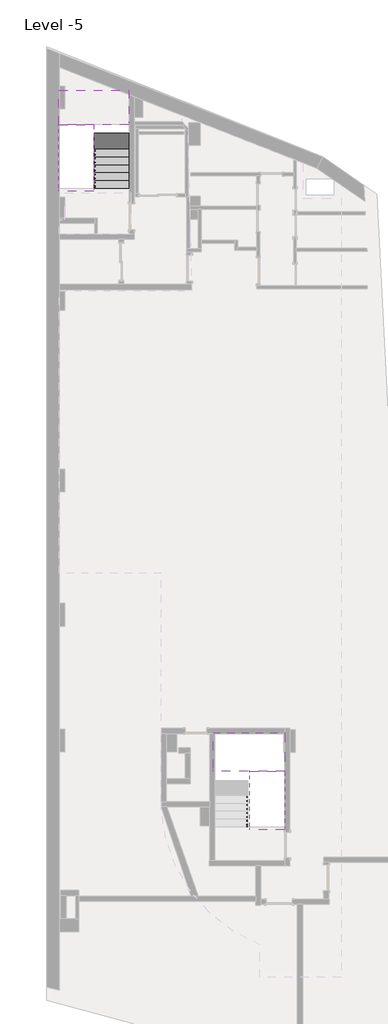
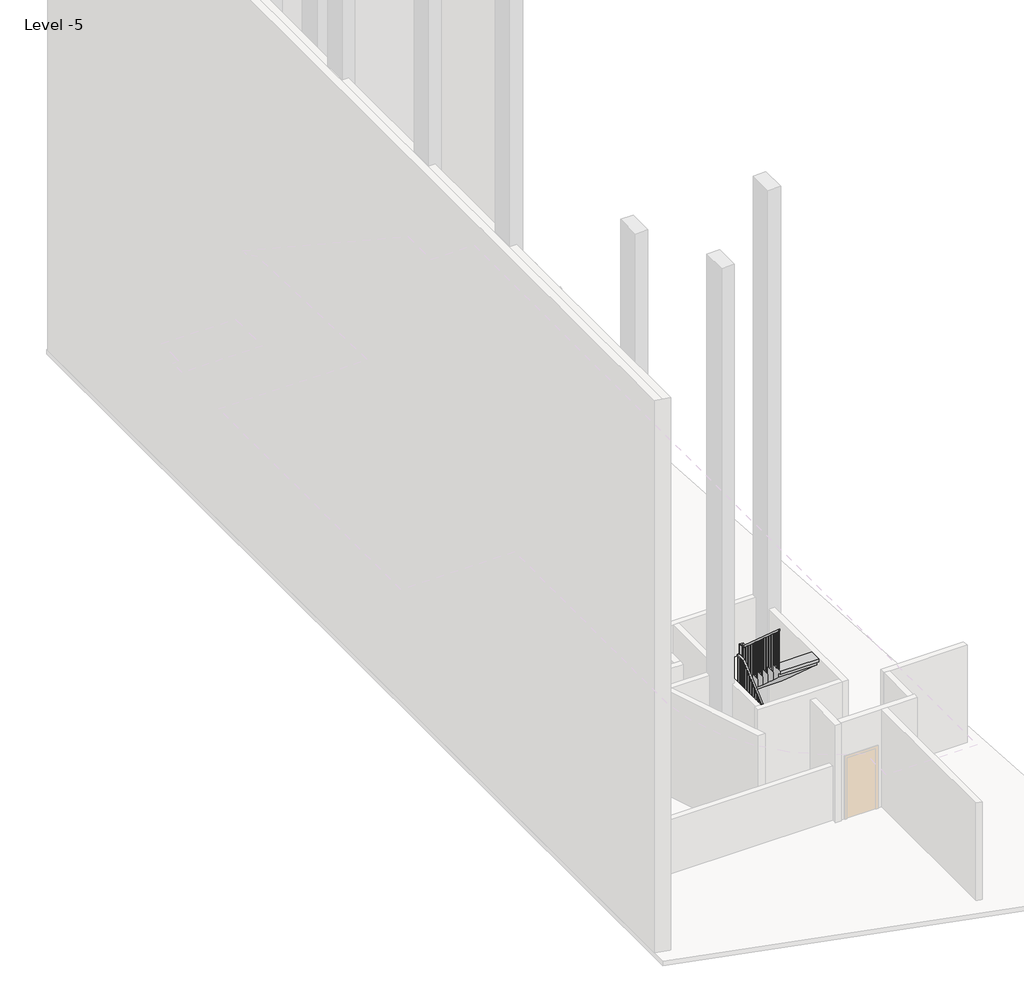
# One storey, part 3 of 3: 3 stair flights, 2 railings, 2 slabs.
"""IFC4 building model written with IfcOpenShell, lengths in millimetres."""

from ifc_helpers import new_model, si_unit, frame, origin, place, context, project, spatial, polyline, outline, extrude, faceted_brep, element, save

model = new_model("IFC4")

# Units and contexts
model_context = context("Model", 3, world=origin())
ifc_project = project(units=[si_unit("LENGTHUNIT", "METRE", prefix="MILLI")], contexts=[model_context])

# Site, building, storey
site = spatial("IfcSite", under=ifc_project)
building = spatial("IfcBuilding", under=site)
storey = spatial("IfcBuildingStorey", under=building, Name="Level -5", Elevation=-17500.0)

# Railings
placement = place(None, origin())
element("IfcRailing", 1, ObjectType="1100mm", at=placement, inside=storey, context=model_context, shape_type="SolidModel", body=[
    faceted_brep([(1179.9765888, 10328.8506586, -16194.1176471), (1179.9765888, 10328.8506586, -16256.1792584), (1229.9765888, 10328.8506586, -16256.1792584), (1229.9765888, 10328.8506586, -16194.1176471), (1179.9765888, 12288.8506586, -14752.9411765), (1179.9765888, 12305.25445, -14802.9411765), (1229.9765888, 12305.25445, -14802.9411765), (1229.9765888, 12288.8506586, -14752.9411765), (1179.9765888, 12569.2506586, -14752.9411765), (1179.9765888, 12569.2506586, -14802.9411765), (1229.9765888, 12619.2506586, -14802.9411765), (1229.9765888, 12619.2506586, -14752.9411765), (1159.5709975, 12569.2506586, -14752.9411765), (1159.5709975, 12619.2506586, -14752.9411765), (1109.5709975, 12619.2506586, -14802.9411765), (1109.5709975, 12569.2506586, -14802.9411765)], [[[0, 1, 2, 3]], [[1, 0, 4, 5]], [[2, 1, 5, 6]], [[3, 2, 6, 7]], [[0, 3, 7, 4]], [[5, 4, 8, 9]], [[6, 5, 9, 10]], [[7, 6, 10, 11]], [[4, 7, 11, 8]], [[12, 13, 14, 15]], [[9, 8, 12, 15]], [[10, 9, 15, 14]], [[11, 10, 14, 13]], [[8, 11, 13, 12]]]),
    faceted_brep([(1159.5709975, 12569.2506586, -14752.9411765), (1109.5709975, 12569.2506586, -14802.9411765), (1109.5709975, 12619.2506586, -14802.9411765), (1159.5709975, 12619.2506586, -14752.9411765), (1159.5709975, 12569.2506586, -14609.4145525), (1159.5709975, 12619.2506586, -14584.1176471), (1109.5709975, 12619.2506586, -14584.1176471), (1109.5709975, 12569.2506586, -14609.4145525)], [[[0, 1, 2, 3]], [[4, 5, 6, 7]], [[1, 0, 4, 7]], [[2, 1, 7, 6]], [[3, 2, 6, 5]], [[0, 3, 5, 4]]]),
    faceted_brep([(1159.5709975, 12619.2506586, -14584.1176471), (1159.5709975, 12569.2506586, -14609.4145525), (1109.5709975, 12569.2506586, -14609.4145525), (1109.5709975, 12619.2506586, -14584.1176471), (1159.5709975, 10328.8506586, -12900.0), (1109.5709975, 10328.8506586, -12900.0), (1109.5709975, 10328.8506586, -12962.0616113), (1159.5709975, 10328.8506586, -12962.0616113)], [[[0, 1, 2, 3]], [[4, 5, 6, 7]], [[1, 0, 4, 7]], [[2, 1, 7, 6]], [[3, 2, 6, 5]], [[0, 3, 5, 4]]]),
    extrude(outline(polyline([(10436.7506586, -14205.8823529), (10411.7506586, -14205.8823529), (10411.7506586, -13023.0174937), (10436.7506586, -13041.3998466), (10436.7506586, -14205.8823529)])), frame((1122.0709975, 0.0, 0.0), z_axis=(1.0, 0.0, 0.0), x_axis=(0.0, 1.0, 0.0)), (0.0, 0.0, 1.0), 25.0),
    extrude(outline(polyline([(10576.7506586, -14205.8823529), (10551.7506586, -14205.8823529), (10551.7506586, -13125.9586701), (10576.7506586, -13144.3410231), (10576.7506586, -14205.8823529)])), frame((1122.0709975, 0.0, 0.0), z_axis=(1.0, 0.0, 0.0), x_axis=(0.0, 1.0, 0.0)), (0.0, 0.0, 1.0), 25.0),
    extrude(outline(polyline([(10716.7506586, -14411.7647059), (10691.7506586, -14411.7647059), (10691.7506586, -13228.8998466), (10716.7506586, -13247.2821995), (10716.7506586, -14411.7647059)])), frame((1122.0709975, 0.0, 0.0), z_axis=(1.0, 0.0, 0.0), x_axis=(0.0, 1.0, 0.0)), (0.0, 0.0, 1.0), 25.0),
    extrude(outline(polyline([(10856.7506586, -14411.7647059), (10831.7506586, -14411.7647059), (10831.7506586, -13331.8410231), (10856.7506586, -13350.223376), (10856.7506586, -14411.7647059)])), frame((1122.0709975, 0.0, 0.0), z_axis=(1.0, 0.0, 0.0), x_axis=(0.0, 1.0, 0.0)), (0.0, 0.0, 1.0), 25.0),
    extrude(outline(polyline([(10996.7506586, -14617.6470588), (10971.7506586, -14617.6470588), (10971.7506586, -13434.7821995), (10996.7506586, -13453.1645525), (10996.7506586, -14617.6470588)])), frame((1122.0709975, 0.0, 0.0), z_axis=(1.0, 0.0, 0.0), x_axis=(0.0, 1.0, 0.0)), (0.0, 0.0, 1.0), 25.0),
    extrude(outline(polyline([(11136.7506586, -14617.6470588), (11111.7506586, -14617.6470588), (11111.7506586, -13537.723376), (11136.7506586, -13556.105729), (11136.7506586, -14617.6470588)])), frame((1122.0709975, 0.0, 0.0), z_axis=(1.0, 0.0, 0.0), x_axis=(0.0, 1.0, 0.0)), (0.0, 0.0, 1.0), 25.0),
    extrude(outline(polyline([(11276.7506586, -14823.5294118), (11251.7506586, -14823.5294118), (11251.7506586, -13640.6645525), (11276.7506586, -13659.0469054), (11276.7506586, -14823.5294118)])), frame((1122.0709975, 0.0, 0.0), z_axis=(1.0, 0.0, 0.0), x_axis=(0.0, 1.0, 0.0)), (0.0, 0.0, 1.0), 25.0),
    extrude(outline(polyline([(11416.7506586, -14823.5294118), (11391.7506586, -14823.5294118), (11391.7506586, -13743.605729), (11416.7506586, -13761.9880819), (11416.7506586, -14823.5294118)])), frame((1122.0709975, 0.0, 0.0), z_axis=(1.0, 0.0, 0.0), x_axis=(0.0, 1.0, 0.0)), (0.0, 0.0, 1.0), 25.0),
    extrude(outline(polyline([(11556.7506586, -15029.4117647), (11531.7506586, -15029.4117647), (11531.7506586, -13846.5469054), (11556.7506586, -13864.9292584), (11556.7506586, -15029.4117647)])), frame((1122.0709975, 0.0, 0.0), z_axis=(1.0, 0.0, 0.0), x_axis=(0.0, 1.0, 0.0)), (0.0, 0.0, 1.0), 25.0),
    extrude(outline(polyline([(11696.7506586, -15029.4117647), (11671.7506586, -15029.4117647), (11671.7506586, -13949.4880819), (11696.7506586, -13967.8704348), (11696.7506586, -15029.4117647)])), frame((1122.0709975, 0.0, 0.0), z_axis=(1.0, 0.0, 0.0), x_axis=(0.0, 1.0, 0.0)), (0.0, 0.0, 1.0), 25.0),
    extrude(outline(polyline([(11836.7506586, -15235.2941176), (11811.7506586, -15235.2941176), (11811.7506586, -14052.4292584), (11836.7506586, -14070.8116113), (11836.7506586, -15235.2941176)])), frame((1122.0709975, 0.0, 0.0), z_axis=(1.0, 0.0, 0.0), x_axis=(0.0, 1.0, 0.0)), (0.0, 0.0, 1.0), 25.0),
    extrude(outline(polyline([(11976.7506586, -15235.2941176), (11951.7506586, -15235.2941176), (11951.7506586, -14155.3704348), (11976.7506586, -14173.7527878), (11976.7506586, -15235.2941176)])), frame((1122.0709975, 0.0, 0.0), z_axis=(1.0, 0.0, 0.0), x_axis=(0.0, 1.0, 0.0)), (0.0, 0.0, 1.0), 25.0),
    extrude(outline(polyline([(12116.7506586, -15441.1764706), (12091.7506586, -15441.1764706), (12091.7506586, -14258.3116113), (12116.7506586, -14276.6939643), (12116.7506586, -15441.1764706)])), frame((1122.0709975, 0.0, 0.0), z_axis=(1.0, 0.0, 0.0), x_axis=(0.0, 1.0, 0.0)), (0.0, 0.0, 1.0), 25.0),
    extrude(outline(polyline([(12256.7506586, -15441.1764706), (12231.7506586, -15441.1764706), (12231.7506586, -14361.2527878), (12256.7506586, -14379.6351407), (12256.7506586, -15441.1764706)])), frame((1122.0709975, 0.0, 0.0), z_axis=(1.0, 0.0, 0.0), x_axis=(0.0, 1.0, 0.0)), (0.0, 0.0, 1.0), 25.0),
    extrude(outline(polyline([(12396.7506586, -15647.0588235), (12371.7506586, -15647.0588235), (12371.7506586, -14464.1939643), (12396.7506586, -14482.5763172), (12396.7506586, -15647.0588235)])), frame((1122.0709975, 0.0, 0.0), z_axis=(1.0, 0.0, 0.0), x_axis=(0.0, 1.0, 0.0)), (0.0, 0.0, 1.0), 25.0),
    extrude(outline(polyline([(12536.7506586, -15647.0588235), (12511.7506586, -15647.0588235), (12511.7506586, -14567.1351407), (12536.7506586, -14585.5174937), (12536.7506586, -15647.0588235)])), frame((1122.0709975, 0.0, 0.0), z_axis=(1.0, 0.0, 0.0), x_axis=(0.0, 1.0, 0.0)), (0.0, 0.0, 1.0), 25.0),
    extrude(outline(polyline([(1147.4765888, 12581.7506586), (1122.4765888, 12581.7506586), (1122.4765888, 12606.7506586), (1147.4765888, 12606.7506586), (1147.4765888, 12581.7506586)])), frame((0.0, 0.0, -15852.9411765), z_axis=(0.0, 0.0, 1.0), x_axis=(1.0, 0.0, 0.0)), (0.0, 0.0, 1.0), 1050.0),
    extrude(outline(polyline([(1192.4765888, 12486.3506586), (1192.4765888, 12511.3506586), (1217.4765888, 12511.3506586), (1217.4765888, 12486.3506586), (1192.4765888, 12486.3506586)])), frame((0.0, 0.0, -15852.9411765), z_axis=(0.0, 0.0, 1.0), x_axis=(1.0, 0.0, 0.0)), (0.0, 0.0, 1.0), 1050.0),
    extrude(outline(polyline([(1192.4765888, 12346.3506586), (1192.4765888, 12371.3506586), (1217.4765888, 12371.3506586), (1217.4765888, 12346.3506586), (1192.4765888, 12346.3506586)])), frame((0.0, 0.0, -15852.9411765), z_axis=(0.0, 0.0, 1.0), x_axis=(1.0, 0.0, 0.0)), (0.0, 0.0, 1.0), 1050.0),
    extrude(outline(polyline([(12206.3506586, -14875.6645525), (12231.3506586, -14857.2821995), (12231.3506586, -16058.8235294), (12206.3506586, -16058.8235294), (12206.3506586, -14875.6645525)])), frame((1192.4765888, 0.0, 0.0), z_axis=(1.0, 0.0, 0.0), x_axis=(0.0, 1.0, 0.0)), (0.0, 0.0, 1.0), 25.0),
    extrude(outline(polyline([(12066.3506586, -14978.605729), (12091.3506586, -14960.223376), (12091.3506586, -16058.8235294), (12066.3506586, -16058.8235294), (12066.3506586, -14978.605729)])), frame((1192.4765888, 0.0, 0.0), z_axis=(1.0, 0.0, 0.0), x_axis=(0.0, 1.0, 0.0)), (0.0, 0.0, 1.0), 25.0),
    extrude(outline(polyline([(11926.3506586, -15081.5469054), (11951.3506586, -15063.1645525), (11951.3506586, -16264.7058824), (11926.3506586, -16264.7058824), (11926.3506586, -15081.5469054)])), frame((1192.4765888, 0.0, 0.0), z_axis=(1.0, 0.0, 0.0), x_axis=(0.0, 1.0, 0.0)), (0.0, 0.0, 1.0), 25.0),
    extrude(outline(polyline([(11786.3506586, -15184.4880819), (11811.3506586, -15166.105729), (11811.3506586, -16264.7058824), (11786.3506586, -16264.7058824), (11786.3506586, -15184.4880819)])), frame((1192.4765888, 0.0, 0.0), z_axis=(1.0, 0.0, 0.0), x_axis=(0.0, 1.0, 0.0)), (0.0, 0.0, 1.0), 25.0),
    extrude(outline(polyline([(11646.3506586, -15287.4292584), (11671.3506586, -15269.0469054), (11671.3506586, -16470.5882353), (11646.3506586, -16470.5882353), (11646.3506586, -15287.4292584)])), frame((1192.4765888, 0.0, 0.0), z_axis=(1.0, 0.0, 0.0), x_axis=(0.0, 1.0, 0.0)), (0.0, 0.0, 1.0), 25.0),
    extrude(outline(polyline([(11506.3506586, -15390.3704348), (11531.3506586, -15371.9880819), (11531.3506586, -16470.5882353), (11506.3506586, -16470.5882353), (11506.3506586, -15390.3704348)])), frame((1192.4765888, 0.0, 0.0), z_axis=(1.0, 0.0, 0.0), x_axis=(0.0, 1.0, 0.0)), (0.0, 0.0, 1.0), 25.0),
    extrude(outline(polyline([(11366.3506586, -15493.3116113), (11391.3506586, -15474.9292584), (11391.3506586, -16676.4705882), (11366.3506586, -16676.4705882), (11366.3506586, -15493.3116113)])), frame((1192.4765888, 0.0, 0.0), z_axis=(1.0, 0.0, 0.0), x_axis=(0.0, 1.0, 0.0)), (0.0, 0.0, 1.0), 25.0),
    extrude(outline(polyline([(11226.3506586, -15596.2527878), (11251.3506586, -15577.8704348), (11251.3506586, -16676.4705882), (11226.3506586, -16676.4705882), (11226.3506586, -15596.2527878)])), frame((1192.4765888, 0.0, 0.0), z_axis=(1.0, 0.0, 0.0), x_axis=(0.0, 1.0, 0.0)), (0.0, 0.0, 1.0), 25.0),
    extrude(outline(polyline([(11086.3506586, -15699.1939643), (11111.3506586, -15680.8116113), (11111.3506586, -16882.3529412), (11086.3506586, -16882.3529412), (11086.3506586, -15699.1939643)])), frame((1192.4765888, 0.0, 0.0), z_axis=(1.0, 0.0, 0.0), x_axis=(0.0, 1.0, 0.0)), (0.0, 0.0, 1.0), 25.0),
    extrude(outline(polyline([(10946.3506586, -15802.1351407), (10971.3506586, -15783.7527878), (10971.3506586, -16882.3529412), (10946.3506586, -16882.3529412), (10946.3506586, -15802.1351407)])), frame((1192.4765888, 0.0, 0.0), z_axis=(1.0, 0.0, 0.0), x_axis=(0.0, 1.0, 0.0)), (0.0, 0.0, 1.0), 25.0),
    extrude(outline(polyline([(10806.3506586, -15905.0763172), (10831.3506586, -15886.6939643), (10831.3506586, -17088.2352941), (10806.3506586, -17088.2352941), (10806.3506586, -15905.0763172)])), frame((1192.4765888, 0.0, 0.0), z_axis=(1.0, 0.0, 0.0), x_axis=(0.0, 1.0, 0.0)), (0.0, 0.0, 1.0), 25.0),
    extrude(outline(polyline([(10666.3506586, -16008.0174937), (10691.3506586, -15989.6351407), (10691.3506586, -17088.2352941), (10666.3506586, -17088.2352941), (10666.3506586, -16008.0174937)])), frame((1192.4765888, 0.0, 0.0), z_axis=(1.0, 0.0, 0.0), x_axis=(0.0, 1.0, 0.0)), (0.0, 0.0, 1.0), 25.0),
    extrude(outline(polyline([(10526.3506586, -16110.9586701), (10551.3506586, -16092.5763172), (10551.3506586, -17294.1176471), (10526.3506586, -17294.1176471), (10526.3506586, -16110.9586701)])), frame((1192.4765888, 0.0, 0.0), z_axis=(1.0, 0.0, 0.0), x_axis=(0.0, 1.0, 0.0)), (0.0, 0.0, 1.0), 25.0),
    extrude(outline(polyline([(10386.3506586, -16213.8998466), (10411.3506586, -16195.5174937), (10411.3506586, -17294.1176471), (10386.3506586, -17294.1176471), (10386.3506586, -16213.8998466)])), frame((1192.4765888, 0.0, 0.0), z_axis=(1.0, 0.0, 0.0), x_axis=(0.0, 1.0, 0.0)), (0.0, 0.0, 1.0), 25.0),
    extrude(outline(polyline([(1147.0709975, 12606.7506586), (1147.0709975, 12581.7506586), (1122.0709975, 12581.7506586), (1122.0709975, 12606.7506586), (1147.0709975, 12606.7506586)])), frame((0.0, 0.0, -15852.9411765), z_axis=(0.0, 0.0, 1.0), x_axis=(1.0, 0.0, 0.0)), (0.0, 0.0, 1.0), 1050.0),
    extrude(outline(polyline([(1192.4765888, 12581.7506586), (1192.4765888, 12606.7506586), (1217.4765888, 12606.7506586), (1217.4765888, 12581.7506586), (1192.4765888, 12581.7506586)])), frame((0.0, 0.0, -15852.9411765), z_axis=(0.0, 0.0, 1.0), x_axis=(1.0, 0.0, 0.0)), (0.0, 0.0, 1.0), 1050.0),
    extrude(outline(polyline([(12276.3506586, -14824.1939643), (12301.3506586, -14805.8116113), (12301.3506586, -15852.9411765), (12276.3506586, -15852.9411765), (12276.3506586, -14824.1939643)])), frame((1192.4765888, 0.0, 0.0), z_axis=(1.0, 0.0, 0.0), x_axis=(0.0, 1.0, 0.0)), (0.0, 0.0, 1.0), 25.0),
    extrude(outline(polyline([(10353.8506586, -14205.8823529), (10328.8506586, -14205.8823529), (10328.8506586, -12962.0616113), (10353.8506586, -12980.4439643), (10353.8506586, -14205.8823529)])), frame((1122.0709975, 0.0, 0.0), z_axis=(1.0, 0.0, 0.0), x_axis=(0.0, 1.0, 0.0)), (0.0, 0.0, 1.0), 25.0),
    extrude(outline(polyline([(10328.8506586, -16256.1792584), (10353.8506586, -16237.7969054), (10353.8506586, -17294.1176471), (10328.8506586, -17294.1176471), (10328.8506586, -16256.1792584)])), frame((1192.4765888, 0.0, 0.0), z_axis=(1.0, 0.0, 0.0), x_axis=(0.0, 1.0, 0.0)), (0.0, 0.0, 1.0), 25.0),
])
element("IfcRailing", 2, ObjectType="1100mm", at=placement, inside=storey, context=model_context, shape_type="SolidModel", body=[
    faceted_brep([(6559.5709976, -12235.6929429, -16150.0), (6559.5709976, -12235.6929429, -16217.0297299), (6609.5709976, -12235.6929429, -16217.0297299), (6609.5709976, -12235.6929429, -16150.0), (6559.5709976, -10555.6929429, -14650.0), (6559.5709976, -10536.6196454, -14700.0), (6609.5709976, -10536.6196454, -14700.0), (6609.5709976, -10555.6929429, -14650.0), (6559.5709976, -10225.2929429, -14650.0), (6559.5709976, -10225.2929429, -14700.0), (6609.5709976, -10275.2929429, -14700.0), (6609.5709976, -10275.2929429, -14650.0), (6615.3709976, -10225.2929429, -14650.0), (6665.3709976, -10225.2929429, -14700.0), (6665.3709976, -10275.2929429, -14700.0), (6615.3709976, -10275.2929429, -14650.0), (6615.3709976, -10225.2929429, -14333.3928571), (6665.3709976, -10225.2929429, -14383.3928571), (6665.3709976, -10275.2929429, -14383.3928571), (6615.3709976, -10275.2929429, -14333.3928571), (6740.3709976, -10225.2929429, -14333.3928571), (6740.3709976, -10225.2929429, -14383.3928571), (6690.3709976, -10275.2929429, -14383.3928571), (6690.3709976, -10275.2929429, -14333.3928571), (6740.3709976, -10350.2929429, -14333.3928571), (6740.3709976, -10369.3662404, -14383.3928571), (6690.3709976, -10369.3662404, -14383.3928571), (6690.3709976, -10350.2929429, -14333.3928571), (6740.3709976, -12235.6929429, -12650.0), (6690.3709976, -12235.6929429, -12650.0), (6690.3709976, -12235.6929429, -12717.0297299), (6740.3709976, -12235.6929429, -12717.0297299)], [[[0, 1, 2, 3]], [[1, 0, 4, 5]], [[2, 1, 5, 6]], [[3, 2, 6, 7]], [[0, 3, 7, 4]], [[5, 4, 8, 9]], [[6, 5, 9, 10]], [[7, 6, 10, 11]], [[4, 7, 11, 8]], [[9, 8, 12, 13]], [[10, 9, 13, 14]], [[11, 10, 14, 15]], [[8, 11, 15, 12]], [[13, 12, 16, 17]], [[14, 13, 17, 18]], [[15, 14, 18, 19]], [[12, 15, 19, 16]], [[17, 16, 20, 21]], [[18, 17, 21, 22]], [[19, 18, 22, 23]], [[16, 19, 23, 20]], [[21, 20, 24, 25]], [[22, 21, 25, 26]], [[23, 22, 26, 27]], [[20, 23, 27, 24]], [[28, 29, 30, 31]], [[25, 24, 28, 31]], [[26, 25, 31, 30]], [[27, 26, 30, 29]], [[24, 27, 29, 28]]]),
    extrude(outline(polyline([(-12127.7929429, -12813.3690156), (-12127.7929429, -14000.0), (-12152.7929429, -14000.0), (-12152.7929429, -12791.0475871), (-12127.7929429, -12813.3690156)])), frame((6702.8709976, 0.0, 0.0), z_axis=(1.0, 0.0, 0.0), x_axis=(0.0, 1.0, 0.0)), (0.0, 0.0, 1.0), 25.0),
    extrude(outline(polyline([(-11987.7929429, -12938.3690156), (-11987.7929429, -14000.0), (-12012.7929429, -14000.0), (-12012.7929429, -12916.0475871), (-11987.7929429, -12938.3690156)])), frame((6702.8709976, 0.0, 0.0), z_axis=(1.0, 0.0, 0.0), x_axis=(0.0, 1.0, 0.0)), (0.0, 0.0, 1.0), 25.0),
    extrude(outline(polyline([(-11847.7929429, -13063.3690156), (-11847.7929429, -14250.0), (-11872.7929429, -14250.0), (-11872.7929429, -13041.0475871), (-11847.7929429, -13063.3690156)])), frame((6702.8709976, 0.0, 0.0), z_axis=(1.0, 0.0, 0.0), x_axis=(0.0, 1.0, 0.0)), (0.0, 0.0, 1.0), 25.0),
    extrude(outline(polyline([(-11707.7929429, -13188.3690156), (-11707.7929429, -14250.0), (-11732.7929429, -14250.0), (-11732.7929429, -13166.0475871), (-11707.7929429, -13188.3690156)])), frame((6702.8709976, 0.0, 0.0), z_axis=(1.0, 0.0, 0.0), x_axis=(0.0, 1.0, 0.0)), (0.0, 0.0, 1.0), 25.0),
    extrude(outline(polyline([(-11567.7929429, -13313.3690156), (-11567.7929429, -14500.0), (-11592.7929429, -14500.0), (-11592.7929429, -13291.0475871), (-11567.7929429, -13313.3690156)])), frame((6702.8709976, 0.0, 0.0), z_axis=(1.0, 0.0, 0.0), x_axis=(0.0, 1.0, 0.0)), (0.0, 0.0, 1.0), 25.0),
    extrude(outline(polyline([(-11427.7929429, -13438.3690156), (-11427.7929429, -14500.0), (-11452.7929429, -14500.0), (-11452.7929429, -13416.0475871), (-11427.7929429, -13438.3690156)])), frame((6702.8709976, 0.0, 0.0), z_axis=(1.0, 0.0, 0.0), x_axis=(0.0, 1.0, 0.0)), (0.0, 0.0, 1.0), 25.0),
    extrude(outline(polyline([(-11287.7929429, -13563.3690156), (-11287.7929429, -14750.0), (-11312.7929429, -14750.0), (-11312.7929429, -13541.0475871), (-11287.7929429, -13563.3690156)])), frame((6702.8709976, 0.0, 0.0), z_axis=(1.0, 0.0, 0.0), x_axis=(0.0, 1.0, 0.0)), (0.0, 0.0, 1.0), 25.0),
    extrude(outline(polyline([(-11147.7929429, -13688.3690156), (-11147.7929429, -14750.0), (-11172.7929429, -14750.0), (-11172.7929429, -13666.0475871), (-11147.7929429, -13688.3690156)])), frame((6702.8709976, 0.0, 0.0), z_axis=(1.0, 0.0, 0.0), x_axis=(0.0, 1.0, 0.0)), (0.0, 0.0, 1.0), 25.0),
    extrude(outline(polyline([(-11007.7929429, -13813.3690156), (-11007.7929429, -15000.0), (-11032.7929429, -15000.0), (-11032.7929429, -13791.0475871), (-11007.7929429, -13813.3690156)])), frame((6702.8709976, 0.0, 0.0), z_axis=(1.0, 0.0, 0.0), x_axis=(0.0, 1.0, 0.0)), (0.0, 0.0, 1.0), 25.0),
    extrude(outline(polyline([(-10867.7929429, -13938.3690156), (-10867.7929429, -15000.0), (-10892.7929429, -15000.0), (-10892.7929429, -13916.0475871), (-10867.7929429, -13938.3690156)])), frame((6702.8709976, 0.0, 0.0), z_axis=(1.0, 0.0, 0.0), x_axis=(0.0, 1.0, 0.0)), (0.0, 0.0, 1.0), 25.0),
    extrude(outline(polyline([(-10727.7929429, -14063.3690156), (-10727.7929429, -15250.0), (-10752.7929429, -15250.0), (-10752.7929429, -14041.0475871), (-10727.7929429, -14063.3690156)])), frame((6702.8709976, 0.0, 0.0), z_axis=(1.0, 0.0, 0.0), x_axis=(0.0, 1.0, 0.0)), (0.0, 0.0, 1.0), 25.0),
    extrude(outline(polyline([(-10587.7929429, -14188.3690156), (-10587.7929429, -15250.0), (-10612.7929429, -15250.0), (-10612.7929429, -14166.0475871), (-10587.7929429, -14188.3690156)])), frame((6702.8709976, 0.0, 0.0), z_axis=(1.0, 0.0, 0.0), x_axis=(0.0, 1.0, 0.0)), (0.0, 0.0, 1.0), 25.0),
    extrude(outline(polyline([(-10447.7929429, -14313.3690156), (-10447.7929429, -15500.0), (-10472.7929429, -15500.0), (-10472.7929429, -14291.0475871), (-10447.7929429, -14313.3690156)])), frame((6702.8709976, 0.0, 0.0), z_axis=(1.0, 0.0, 0.0), x_axis=(0.0, 1.0, 0.0)), (0.0, 0.0, 1.0), 25.0),
    extrude(outline(polyline([(6702.8709976, -10307.7929429), (6727.8709976, -10307.7929429), (6727.8709976, -10332.7929429), (6702.8709976, -10332.7929429), (6702.8709976, -10307.7929429)])), frame((0.0, 0.0, -15500.0), z_axis=(0.0, 0.0, 1.0), x_axis=(1.0, 0.0, 0.0)), (0.0, 0.0, 1.0), 1116.6071429),
    extrude(outline(polyline([(6642.0709976, -10262.7929429), (6642.0709976, -10237.7929429), (6667.0709976, -10237.7929429), (6667.0709976, -10262.7929429), (6642.0709976, -10262.7929429)])), frame((0.0, 0.0, -15750.0), z_axis=(0.0, 0.0, 1.0), x_axis=(1.0, 0.0, 0.0)), (0.0, 0.0, 1.0), 1050.0),
    extrude(outline(polyline([(6597.0709976, -10358.1929429), (6572.0709976, -10358.1929429), (6572.0709976, -10333.1929429), (6597.0709976, -10333.1929429), (6597.0709976, -10358.1929429)])), frame((0.0, 0.0, -15750.0), z_axis=(0.0, 0.0, 1.0), x_axis=(1.0, 0.0, 0.0)), (0.0, 0.0, 1.0), 1050.0),
    extrude(outline(polyline([(6597.0709976, -10498.1929429), (6572.0709976, -10498.1929429), (6572.0709976, -10473.1929429), (6597.0709976, -10473.1929429), (6597.0709976, -10498.1929429)])), frame((0.0, 0.0, -15750.0), z_axis=(0.0, 0.0, 1.0), x_axis=(1.0, 0.0, 0.0)), (0.0, 0.0, 1.0), 1050.0),
    extrude(outline(polyline([(-10638.1929429, -16000.0), (-10638.1929429, -14790.6904442), (-10613.1929429, -14768.3690156), (-10613.1929429, -16000.0), (-10638.1929429, -16000.0)])), frame((6572.0709976, 0.0, 0.0), z_axis=(1.0, 0.0, 0.0), x_axis=(0.0, 1.0, 0.0)), (0.0, 0.0, 1.0), 25.0),
    extrude(outline(polyline([(-10778.1929429, -16000.0), (-10778.1929429, -14915.6904442), (-10753.1929429, -14893.3690156), (-10753.1929429, -16000.0), (-10778.1929429, -16000.0)])), frame((6572.0709976, 0.0, 0.0), z_axis=(1.0, 0.0, 0.0), x_axis=(0.0, 1.0, 0.0)), (0.0, 0.0, 1.0), 25.0),
    extrude(outline(polyline([(-10918.1929429, -16250.0), (-10918.1929429, -15040.6904442), (-10893.1929429, -15018.3690156), (-10893.1929429, -16250.0), (-10918.1929429, -16250.0)])), frame((6572.0709976, 0.0, 0.0), z_axis=(1.0, 0.0, 0.0), x_axis=(0.0, 1.0, 0.0)), (0.0, 0.0, 1.0), 25.0),
    extrude(outline(polyline([(-11058.1929429, -16250.0), (-11058.1929429, -15165.6904442), (-11033.1929429, -15143.3690156), (-11033.1929429, -16250.0), (-11058.1929429, -16250.0)])), frame((6572.0709976, 0.0, 0.0), z_axis=(1.0, 0.0, 0.0), x_axis=(0.0, 1.0, 0.0)), (0.0, 0.0, 1.0), 25.0),
    extrude(outline(polyline([(-11198.1929429, -16500.0), (-11198.1929429, -15290.6904442), (-11173.1929429, -15268.3690156), (-11173.1929429, -16500.0), (-11198.1929429, -16500.0)])), frame((6572.0709976, 0.0, 0.0), z_axis=(1.0, 0.0, 0.0), x_axis=(0.0, 1.0, 0.0)), (0.0, 0.0, 1.0), 25.0),
    extrude(outline(polyline([(-11338.1929429, -16500.0), (-11338.1929429, -15415.6904442), (-11313.1929429, -15393.3690156), (-11313.1929429, -16500.0), (-11338.1929429, -16500.0)])), frame((6572.0709976, 0.0, 0.0), z_axis=(1.0, 0.0, 0.0), x_axis=(0.0, 1.0, 0.0)), (0.0, 0.0, 1.0), 25.0),
    extrude(outline(polyline([(-11478.1929429, -16750.0), (-11478.1929429, -15540.6904442), (-11453.1929429, -15518.3690156), (-11453.1929429, -16750.0), (-11478.1929429, -16750.0)])), frame((6572.0709976, 0.0, 0.0), z_axis=(1.0, 0.0, 0.0), x_axis=(0.0, 1.0, 0.0)), (0.0, 0.0, 1.0), 25.0),
    extrude(outline(polyline([(-11618.1929429, -16750.0), (-11618.1929429, -15665.6904442), (-11593.1929429, -15643.3690156), (-11593.1929429, -16750.0), (-11618.1929429, -16750.0)])), frame((6572.0709976, 0.0, 0.0), z_axis=(1.0, 0.0, 0.0), x_axis=(0.0, 1.0, 0.0)), (0.0, 0.0, 1.0), 25.0),
    extrude(outline(polyline([(-11758.1929429, -17000.0), (-11758.1929429, -15790.6904442), (-11733.1929429, -15768.3690156), (-11733.1929429, -17000.0), (-11758.1929429, -17000.0)])), frame((6572.0709976, 0.0, 0.0), z_axis=(1.0, 0.0, 0.0), x_axis=(0.0, 1.0, 0.0)), (0.0, 0.0, 1.0), 25.0),
    extrude(outline(polyline([(-11898.1929429, -17000.0), (-11898.1929429, -15915.6904442), (-11873.1929429, -15893.3690156), (-11873.1929429, -17000.0), (-11898.1929429, -17000.0)])), frame((6572.0709976, 0.0, 0.0), z_axis=(1.0, 0.0, 0.0), x_axis=(0.0, 1.0, 0.0)), (0.0, 0.0, 1.0), 25.0),
    extrude(outline(polyline([(-12038.1929429, -17250.0), (-12038.1929429, -16040.6904442), (-12013.1929429, -16018.3690156), (-12013.1929429, -17250.0), (-12038.1929429, -17250.0)])), frame((6572.0709976, 0.0, 0.0), z_axis=(1.0, 0.0, 0.0), x_axis=(0.0, 1.0, 0.0)), (0.0, 0.0, 1.0), 25.0),
    extrude(outline(polyline([(-12178.1929429, -17250.0), (-12178.1929429, -16165.6904442), (-12153.1929429, -16143.3690156), (-12153.1929429, -17250.0), (-12178.1929429, -17250.0)])), frame((6572.0709976, 0.0, 0.0), z_axis=(1.0, 0.0, 0.0), x_axis=(0.0, 1.0, 0.0)), (0.0, 0.0, 1.0), 25.0),
    extrude(outline(polyline([(6702.8709976, -10237.7929429), (6727.8709976, -10237.7929429), (6727.8709976, -10262.7929429), (6702.8709976, -10262.7929429), (6702.8709976, -10237.7929429)])), frame((0.0, 0.0, -15750.0), z_axis=(0.0, 0.0, 1.0), x_axis=(1.0, 0.0, 0.0)), (0.0, 0.0, 1.0), 1366.6071429),
    extrude(outline(polyline([(6597.0709976, -10262.7929429), (6572.0709976, -10262.7929429), (6572.0709976, -10237.7929429), (6597.0709976, -10237.7929429), (6597.0709976, -10262.7929429)])), frame((0.0, 0.0, -15750.0), z_axis=(0.0, 0.0, 1.0), x_axis=(1.0, 0.0, 0.0)), (0.0, 0.0, 1.0), 1050.0),
    extrude(outline(polyline([(-10568.1929429, -15750.0), (-10568.1929429, -14728.1904442), (-10543.1929429, -14705.8690156), (-10543.1929429, -15750.0), (-10568.1929429, -15750.0)])), frame((6572.0709976, 0.0, 0.0), z_axis=(1.0, 0.0, 0.0), x_axis=(0.0, 1.0, 0.0)), (0.0, 0.0, 1.0), 25.0),
    extrude(outline(polyline([(-12210.6929429, -12739.3511585), (-12210.6929429, -14000.0), (-12235.6929429, -14000.0), (-12235.6929429, -12717.0297299), (-12210.6929429, -12739.3511585)])), frame((6702.8709976, 0.0, 0.0), z_axis=(1.0, 0.0, 0.0), x_axis=(0.0, 1.0, 0.0)), (0.0, 0.0, 1.0), 25.0),
    extrude(outline(polyline([(-12235.6929429, -17250.0), (-12235.6929429, -16217.0297299), (-12210.6929429, -16194.7083014), (-12210.6929429, -17250.0), (-12235.6929429, -17250.0)])), frame((6572.0709976, 0.0, 0.0), z_axis=(1.0, 0.0, 0.0), x_axis=(0.0, 1.0, 0.0)), (0.0, 0.0, 1.0), 25.0),
])

# Slabs
element("IfcSlab", 3, ObjectType="220mm Thickness", at=placement, inside=storey, context=model_context, shape_type="Brep", body=[
    faceted_brep([(2399.5765888, 13788.8506586, -15852.9411765), (-60.0290025, 13788.8506586, -15852.9411765), (-60.0290025, 12568.8506586, -15852.9411765), (1159.9709975, 12568.8506586, -15852.9411765), (1177.9890888, 12568.8506586, -15852.9411765), (1177.9890888, 12678.8506586, -15852.9411765), (2399.5765888, 12678.8506586, -15852.9411765), (2399.5765888, 13788.8506586, -16072.9411765), (2399.5765888, 12678.8506586, -15962.9411765), (2399.5765888, 12578.8506586, -15962.9411765), (2399.5765888, 12578.8506586, -16072.9411765), (-60.0290025, 13788.8506586, -16072.9411765), (-60.0290025, 12568.8506586, -16072.9411765), (1159.9709975, 12568.8506586, -16072.9411765), (1177.9890888, 12568.8506586, -16072.9411765), (1177.9890888, 12578.8506586, -16072.9411765), (1177.9890888, 12678.8506586, -15962.9411765), (1177.9890888, 12578.8506586, -15962.9411765)], [[[0, 1, 2, 3, 4, 5, 6]], [[7, 0, 6, 8, 9, 10]], [[1, 0, 7, 11]], [[2, 1, 11, 12]], [[3, 2, 12, 13]], [[3, 13, 14, 4]], [[11, 7, 10, 15, 14, 13, 12]], [[16, 17, 9, 8]], [[5, 16, 8, 6]], [[16, 5, 4, 14, 15, 17]], [[9, 17, 15, 10]]]),
])
element("IfcSlab", 4, ObjectType="220mm Thickness", at=placement, inside=storey, context=model_context, shape_type="Brep", body=[
    faceted_brep([(6689.9709976, -10275.6929429, -15750.0), (7909.9709976, -10275.6929429, -15750.0), (7909.9709976, -8910.0372616, -15750.0), (5389.9709976, -8910.0372616, -15750.0), (5389.9709976, -10165.6929429, -15750.0), (6611.5584976, -10165.6929429, -15750.0), (6611.5584976, -10275.6929429, -15750.0), (6689.9709976, -10275.6929429, -15970.0), (6611.5584976, -10275.6929429, -15970.0), (7909.9709976, -10275.6929429, -15970.0), (7909.9709976, -8910.0372616, -15970.0), (5389.9709976, -8910.0372616, -15970.0), (5389.9709976, -10265.6929429, -15970.0), (5389.9709976, -10265.6929429, -15860.0), (5389.9709976, -10165.6929429, -15860.0), (6611.5584976, -10265.6929429, -15970.0), (6611.5584976, -10265.6929429, -15860.0), (6611.5584976, -10165.6929429, -15860.0)], [[[0, 1, 2, 3, 4, 5, 6]], [[7, 0, 6, 8]], [[1, 0, 7, 9]], [[2, 1, 9, 10]], [[3, 2, 10, 11]], [[3, 11, 12, 13, 14, 4]], [[9, 7, 8, 15, 12, 11, 10]], [[16, 17, 14, 13]], [[5, 17, 16, 15, 8, 6]], [[17, 5, 4, 14]], [[16, 13, 12, 15]]]),
])

# Stair flights
element("IfcStairFlight", 5, ObjectType="190mm Depth", at=placement, inside=storey, context=model_context, shape_type="Brep", body=[
    faceted_brep([(1179.5765888, 10608.8506586, -17294.1176471), (1179.5765888, 10328.8506586, -17294.1176471), (2399.5765888, 10328.8506586, -17294.1176471), (2399.5765888, 10608.8506586, -17294.1176471), (1179.5765888, 10608.8506586, -17500.0), (1179.5765888, 10328.8506586, -17500.0), (2399.5765888, 10328.8506586, -17500.0), (2399.5765888, 10608.8506586, -17500.0), (1179.5765888, 10888.8506586, -17088.2352941), (1179.5765888, 10608.8506586, -17088.2352941), (2399.5765888, 10608.8506586, -17088.2352941), (2399.5765888, 10888.8506586, -17088.2352941), (1179.5765888, 10888.8506586, -17324.0694171), (1179.5765888, 10649.5850659, -17500.0), (2399.5765888, 10649.5850659, -17500.0), (2399.5765888, 10888.8506586, -17324.0694171), (1179.5765888, 11168.8506586, -16882.3529412), (1179.5765888, 10888.8506586, -16882.3529412), (2399.5765888, 10888.8506586, -16882.3529412), (2399.5765888, 11168.8506586, -16882.3529412), (1179.5765888, 11168.8506586, -17118.1870642), (2399.5765888, 11168.8506586, -17118.1870642), (1179.5765888, 11448.8506586, -16676.4705882), (1179.5765888, 11168.8506586, -16676.4705882), (2399.5765888, 11168.8506586, -16676.4705882), (2399.5765888, 11448.8506586, -16676.4705882), (1179.5765888, 11448.8506586, -16912.3047112), (2399.5765888, 11448.8506586, -16912.3047112), (1179.5765888, 11728.8506586, -16470.5882353), (1179.5765888, 11448.8506586, -16470.5882353), (2399.5765888, 11448.8506586, -16470.5882353), (2399.5765888, 11728.8506586, -16470.5882353), (1179.5765888, 11728.8506586, -16706.4223583), (2399.5765888, 11728.8506586, -16706.4223583), (1179.5765888, 12008.8506586, -16264.7058824), (1179.5765888, 11728.8506586, -16264.7058824), (2399.5765888, 11728.8506586, -16264.7058824), (2399.5765888, 12008.8506586, -16264.7058824), (1179.5765888, 12008.8506586, -16500.5400053), (2399.5765888, 12008.8506586, -16500.5400053), (1179.5765888, 12288.8506586, -16058.8235294), (1179.5765888, 12008.8506586, -16058.8235294), (2399.5765888, 12008.8506586, -16058.8235294), (2399.5765888, 12288.8506586, -16058.8235294), (1179.5765888, 12288.8506586, -16294.6576524), (2399.5765888, 12288.8506586, -16294.6576524), (1179.5765888, 12288.8506586, -15852.9411765), (2399.5765888, 12288.8506586, -15852.9411765), (2399.5765888, 12668.8506586, -15852.9411765), (1179.5765888, 12668.8506586, -15852.9411765), (1179.5765888, 12668.8506586, -15952.9411765), (1179.5765888, 12568.8506586, -15952.9411765), (1179.5765888, 12568.8506586, -16088.7752995), (2399.5765888, 12568.8506586, -16088.7752995), (2399.5765888, 12568.8506586, -15952.9411765), (2399.5765888, 12668.8506586, -15952.9411765)], [[[0, 1, 2, 3]], [[1, 0, 4, 5]], [[2, 1, 5, 6]], [[3, 2, 6, 7]], [[8, 9, 10, 11]], [[4, 0, 9, 8, 12, 13]], [[0, 3, 10, 9]], [[3, 7, 14, 15, 11, 10]], [[16, 17, 18, 19]], [[17, 16, 20, 12, 8]], [[8, 11, 18, 17]], [[19, 18, 11, 15, 21]], [[22, 23, 24, 25]], [[23, 22, 26, 20, 16]], [[16, 19, 24, 23]], [[25, 24, 19, 21, 27]], [[28, 29, 30, 31]], [[29, 28, 32, 26, 22]], [[22, 25, 30, 29]], [[31, 30, 25, 27, 33]], [[34, 35, 36, 37]], [[35, 34, 38, 32, 28]], [[28, 31, 36, 35]], [[37, 36, 31, 33, 39]], [[40, 41, 42, 43]], [[41, 40, 44, 38, 34]], [[34, 37, 42, 41]], [[43, 42, 37, 39, 45]], [[46, 47, 48, 49]], [[46, 49, 50, 51, 52, 44, 40]], [[40, 43, 47, 46]], [[48, 47, 43, 45, 53, 54, 55]], [[52, 51, 54, 53]], [[5, 4, 13, 14, 7, 6]], [[14, 13, 12, 20, 26, 32, 38, 44, 52, 53, 45, 39, 33, 27, 21, 15]], [[55, 54, 51, 50]], [[55, 50, 49, 48]]]),
])
element("IfcStairFlight", 6, ObjectType="190mm Depth", at=placement, inside=storey, context=model_context, shape_type="Brep", body=[
    faceted_brep([(1159.9709975, 12568.8506586, -15647.0588235), (-60.0290025, 12568.8506586, -15647.0588235), (-60.0290025, 12547.3162514, -15647.0588235), (-60.0290025, 12288.8506586, -15647.0588235), (1159.9709975, 12288.8506586, -15647.0588235), (1159.9709975, 12547.3162514, -15647.0588235), (1159.9709975, 12288.8506586, -15882.8929465), (1159.9709975, 12547.3162514, -16072.9411765), (1159.9709975, 12568.8506586, -16072.9411765), (-60.0290025, 12568.8506586, -16072.9411765), (-60.0290025, 12547.3162514, -16072.9411765), (-60.0290025, 12288.8506586, -15882.8929465), (1159.9709975, 12008.8506586, -15441.1764706), (1159.9709975, 12288.8506586, -15441.1764706), (-60.0290025, 12288.8506586, -15441.1764706), (-60.0290025, 12008.8506586, -15441.1764706), (1159.9709975, 12008.8506586, -15677.0105936), (-60.0290025, 12008.8506586, -15677.0105936), (1159.9709975, 11728.8506586, -15235.2941176), (1159.9709975, 12008.8506586, -15235.2941176), (-60.0290025, 12008.8506586, -15235.2941176), (-60.0290025, 11728.8506586, -15235.2941176), (1159.9709975, 11728.8506586, -15471.1282406), (-60.0290025, 11728.8506586, -15471.1282406), (1159.9709975, 11448.8506586, -15029.4117647), (1159.9709975, 11728.8506586, -15029.4117647), (-60.0290025, 11728.8506586, -15029.4117647), (-60.0290025, 11448.8506586, -15029.4117647), (1159.9709975, 11448.8506586, -15265.2458877), (-60.0290025, 11448.8506586, -15265.2458877), (1159.9709975, 11168.8506586, -14823.5294118), (1159.9709975, 11448.8506586, -14823.5294118), (-60.0290025, 11448.8506586, -14823.5294118), (-60.0290025, 11168.8506586, -14823.5294118), (1159.9709975, 11168.8506586, -15059.3635347), (-60.0290025, 11168.8506586, -15059.3635347), (1159.9709975, 10888.8506586, -14617.6470588), (1159.9709975, 11168.8506586, -14617.6470588), (-60.0290025, 11168.8506586, -14617.6470588), (-60.0290025, 10888.8506586, -14617.6470588), (1159.9709975, 10888.8506586, -14853.4811818), (-60.0290025, 10888.8506586, -14853.4811818), (1159.9709975, 10608.8506586, -14411.7647059), (1159.9709975, 10888.8506586, -14411.7647059), (-60.0290025, 10888.8506586, -14411.7647059), (-60.0290025, 10608.8506586, -14411.7647059), (1159.9709975, 10608.8506586, -14647.5988289), (-60.0290025, 10608.8506586, -14647.5988289), (1159.9709975, 10608.8506586, -14205.8823529), (-60.0290025, 10608.8506586, -14205.8823529), (-60.0290025, 10228.8506586, -14205.8823529), (1159.9709975, 10228.8506586, -14205.8823529), (1159.9709975, 10228.8506586, -14305.8823529), (1159.9709975, 10328.8506586, -14305.8823529), (1159.9709975, 10328.8506586, -14441.7164759), (-60.0290025, 10328.8506586, -14441.7164759), (-60.0290025, 10328.8506586, -14305.8823529), (-60.0290025, 10228.8506586, -14305.8823529)], [[[0, 1, 2, 3, 4, 5]], [[4, 6, 7, 8, 0, 5]], [[1, 0, 8, 9]], [[1, 9, 10, 11, 3, 2]], [[12, 13, 14, 15]], [[13, 12, 16, 6, 4]], [[14, 13, 4, 3]], [[15, 14, 3, 11, 17]], [[18, 19, 20, 21]], [[19, 18, 22, 16, 12]], [[20, 19, 12, 15]], [[21, 20, 15, 17, 23]], [[24, 25, 26, 27]], [[25, 24, 28, 22, 18]], [[26, 25, 18, 21]], [[27, 26, 21, 23, 29]], [[30, 31, 32, 33]], [[31, 30, 34, 28, 24]], [[32, 31, 24, 27]], [[33, 32, 27, 29, 35]], [[36, 37, 38, 39]], [[37, 36, 40, 34, 30]], [[38, 37, 30, 33]], [[39, 38, 33, 35, 41]], [[42, 43, 44, 45]], [[43, 42, 46, 40, 36]], [[44, 43, 36, 39]], [[45, 44, 39, 41, 47]], [[48, 49, 50, 51]], [[48, 51, 52, 53, 54, 46, 42]], [[49, 48, 42, 45]], [[50, 49, 45, 47, 55, 56, 57]], [[55, 54, 53, 56]], [[10, 7, 6, 16, 22, 28, 34, 40, 46, 54, 55, 47, 41, 35, 29, 23, 17, 11]], [[7, 10, 9, 8]], [[57, 56, 53, 52]], [[57, 52, 51, 50]]]),
])
element("IfcStairFlight", 7, ObjectType="190mm Depth", at=placement, inside=storey, context=model_context, shape_type="Brep", body=[
    faceted_brep([(7909.9709976, -10275.6929429, -15500.0), (6689.9709976, -10275.6929429, -15500.0), (6689.9709976, -10314.5714735, -15500.0), (6689.9709976, -10555.6929429, -15500.0), (7909.9709976, -10555.6929429, -15500.0), (7909.9709976, -10314.5714735, -15500.0), (7909.9709976, -10555.6929429, -15754.7129737), (7909.9709976, -10314.5714735, -15970.0), (7909.9709976, -10275.6929429, -15970.0), (6689.9709976, -10275.6929429, -15970.0), (6689.9709976, -10314.5714735, -15970.0), (6689.9709976, -10555.6929429, -15754.7129737), (7909.9709976, -10835.6929429, -15250.0), (7909.9709976, -10555.6929429, -15250.0), (6689.9709976, -10555.6929429, -15250.0), (6689.9709976, -10835.6929429, -15250.0), (7909.9709976, -10835.6929429, -15504.7129737), (6689.9709976, -10835.6929429, -15504.7129737), (7909.9709976, -11115.6929429, -15000.0), (7909.9709976, -10835.6929429, -15000.0), (6689.9709976, -10835.6929429, -15000.0), (6689.9709976, -11115.6929429, -15000.0), (7909.9709976, -11115.6929429, -15254.7129737), (6689.9709976, -11115.6929429, -15254.7129737), (7909.9709976, -11395.6929429, -14750.0), (7909.9709976, -11115.6929429, -14750.0), (6689.9709976, -11115.6929429, -14750.0), (6689.9709976, -11395.6929429, -14750.0), (7909.9709976, -11395.6929429, -15004.7129737), (6689.9709976, -11395.6929429, -15004.7129737), (7909.9709976, -11675.6929429, -14500.0), (7909.9709976, -11395.6929429, -14500.0), (6689.9709976, -11395.6929429, -14500.0), (6689.9709976, -11675.6929429, -14500.0), (7909.9709976, -11675.6929429, -14754.7129737), (6689.9709976, -11675.6929429, -14754.7129737), (7909.9709976, -11955.6929429, -14250.0), (7909.9709976, -11675.6929429, -14250.0), (6689.9709976, -11675.6929429, -14250.0), (6689.9709976, -11955.6929429, -14250.0), (7909.9709976, -11955.6929429, -14504.7129737), (6689.9709976, -11955.6929429, -14504.7129737), (7909.9709976, -11955.6929429, -14000.0), (6689.9709976, -11955.6929429, -14000.0), (6689.9709976, -12335.6929429, -14000.0), (7909.9709976, -12335.6929429, -14000.0), (7909.9709976, -12335.6929429, -14100.0), (7909.9709976, -12235.6929429, -14100.0), (7909.9709976, -12235.6929429, -14254.7129737), (6689.9709976, -12235.6929429, -14254.7129737), (6689.9709976, -12235.6929429, -14100.0), (6689.9709976, -12335.6929429, -14100.0)], [[[0, 1, 2, 3, 4, 5]], [[4, 6, 7, 8, 0, 5]], [[1, 0, 8, 9]], [[1, 9, 10, 11, 3, 2]], [[12, 13, 14, 15]], [[13, 12, 16, 6, 4]], [[14, 13, 4, 3]], [[15, 14, 3, 11, 17]], [[18, 19, 20, 21]], [[19, 18, 22, 16, 12]], [[20, 19, 12, 15]], [[21, 20, 15, 17, 23]], [[24, 25, 26, 27]], [[25, 24, 28, 22, 18]], [[26, 25, 18, 21]], [[27, 26, 21, 23, 29]], [[30, 31, 32, 33]], [[31, 30, 34, 28, 24]], [[32, 31, 24, 27]], [[33, 32, 27, 29, 35]], [[36, 37, 38, 39]], [[37, 36, 40, 34, 30]], [[38, 37, 30, 33]], [[39, 38, 33, 35, 41]], [[42, 43, 44, 45]], [[42, 45, 46, 47, 48, 40, 36]], [[43, 42, 36, 39]], [[44, 43, 39, 41, 49, 50, 51]], [[49, 48, 47, 50]], [[10, 7, 6, 16, 22, 28, 34, 40, 48, 49, 41, 35, 29, 23, 17, 11]], [[7, 10, 9, 8]], [[51, 50, 47, 46]], [[51, 46, 45, 44]]]),
])

save(model, "model.ifc")
